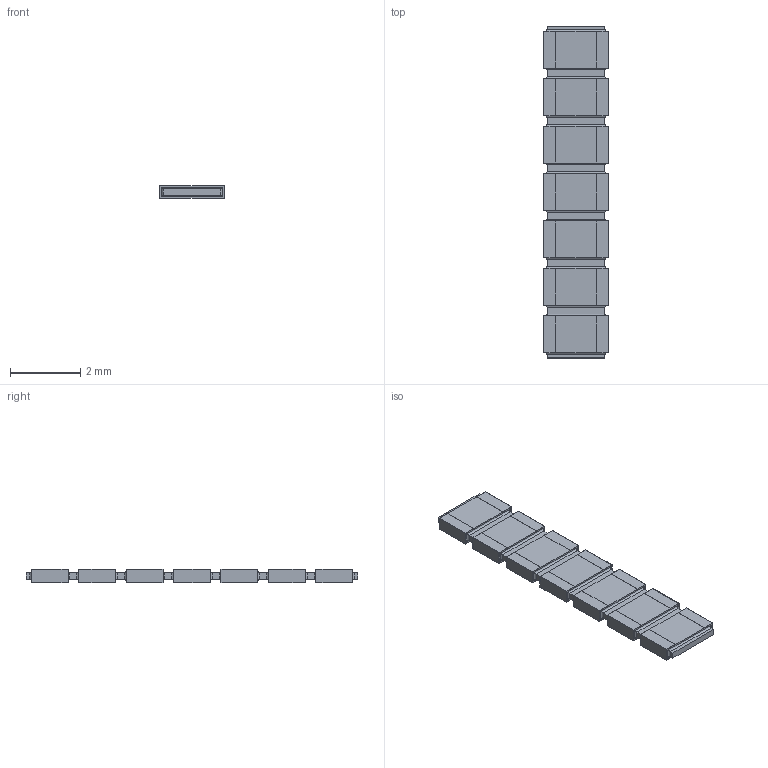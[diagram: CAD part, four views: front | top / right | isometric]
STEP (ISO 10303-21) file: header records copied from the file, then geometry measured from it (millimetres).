
FILE_DESCRIPTION(/* description */ (''),/* implementation_level */ '2;1');
FILE_NAME(/* name */ 'S:\DOCUMENT\AUTOCAD\3D_Modèles\10_3D-pour-VISHAY-COM\PRA\PRAHR135I7_B.stp',/* time_stamp */ '2018-02-02T10:51:15+01:00',/* author */ ('dparmentier'),/* organization */ ('unknown'),/* preprocessor_version */ 'ST-DEVELOPER v17',/* originating_system */ 'Autodesk Inventor 2018',/* authorisation */ '');
FILE_SCHEMA (('AUTOMOTIVE_DESIGN { 1 0 10303 214 3 1 1 }'));
Length unit declared in the file: millimetre
Products named in the file (1): PRAHR135I7_B
Bounding box: 1.85 x 9.45 x 0.38 mm (x, y, z)
Volume: 5.7 mm3; surface area: 76.2 mm2
Topology: 15 solids, 15 shells, 272 faces, 628 edges, 400 vertices
Faces by surface type: plane 216, cylinder 56
Entity records: 7559 total; most frequent: CARTESIAN_POINT 1301, ORIENTED_EDGE 1256, DIRECTION 1230, EDGE_CURVE 628, LINE 572, VECTOR 572, VERTEX_POINT 400, AXIS2_PLACEMENT_3D 329
